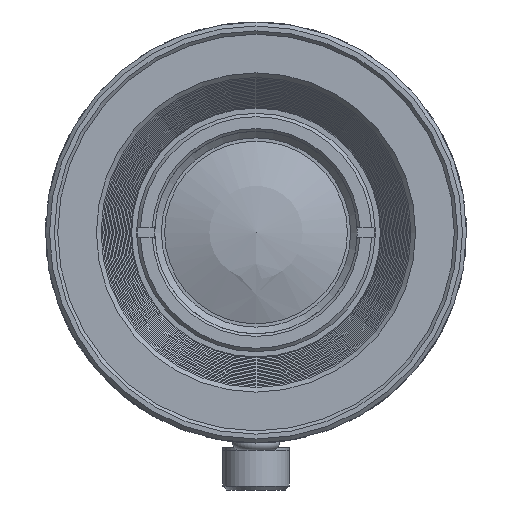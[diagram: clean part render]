
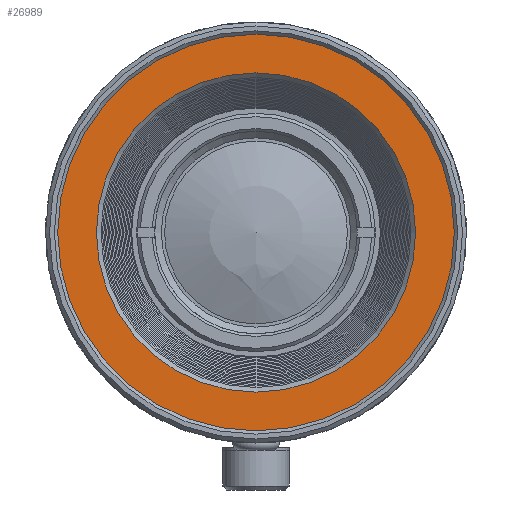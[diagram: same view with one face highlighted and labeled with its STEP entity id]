
A CAD part, front view. The second image highlights one B-rep face of the part: STEP entity #26989.
In plain terms, the highlighted planar face has unit normal (0, -1, 0).
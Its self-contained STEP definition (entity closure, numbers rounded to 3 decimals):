
#3969=ORIENTED_EDGE('',*,*,#9598,.T.);
#3970=ORIENTED_EDGE('',*,*,#9596,.F.);
#9596=EDGE_CURVE('',#12427,#12427,#14380,.T.);
#9598=EDGE_CURVE('',#12429,#12429,#14382,.T.);
#12427=VERTEX_POINT('',#34831);
#12429=VERTEX_POINT('',#34836);
#14380=CIRCLE('',#28231,12.056);
#14382=CIRCLE('',#28234,15.25);
#15158=EDGE_LOOP('',(#3969));
#15159=EDGE_LOOP('',(#3970));
#16633=FACE_BOUND('',#15158,.T.);
#16634=FACE_BOUND('',#15159,.T.);
#18072=PLANE('',#28233);
#26989=ADVANCED_FACE('',(#16633,#16634),#18072,.T.);
#28231=AXIS2_PLACEMENT_3D('',#34830,#30107,#30108);
#28233=AXIS2_PLACEMENT_3D('',#34834,#30111,#30112);
#28234=AXIS2_PLACEMENT_3D('',#34835,#30113,#30114);
#30107=DIRECTION('',(0.,-1.,0.));
#30108=DIRECTION('',(1.,0.,0.));
#30111=DIRECTION('',(0.,-1.,0.));
#30112=DIRECTION('',(1.,0.,0.));
#30113=DIRECTION('',(0.,-1.,0.));
#30114=DIRECTION('',(1.,0.,0.));
#34830=CARTESIAN_POINT('',(0.,-60.7,0.));
#34831=CARTESIAN_POINT('',(12.056,-60.7,0.));
#34834=CARTESIAN_POINT('',(0.,-60.7,12.056));
#34835=CARTESIAN_POINT('',(0.,-60.7,0.));
#34836=CARTESIAN_POINT('',(15.25,-60.7,0.));
